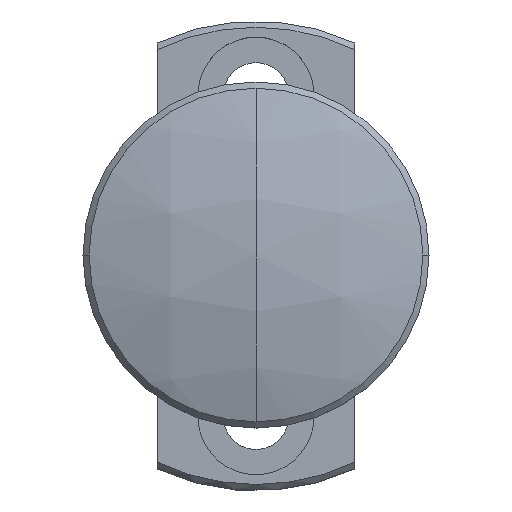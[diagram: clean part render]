
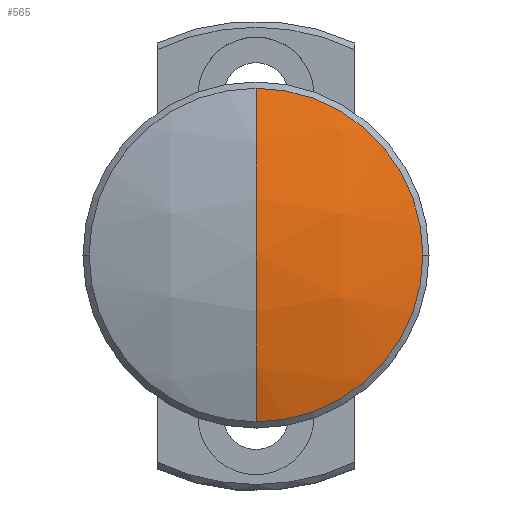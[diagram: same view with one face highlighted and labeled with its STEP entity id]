
A CAD part, top view. The second image highlights one B-rep face of the part: STEP entity #565.
In plain terms, the highlighted spherical face has radius 42 mm.
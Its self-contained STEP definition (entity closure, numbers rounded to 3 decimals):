
#63 = CIRCLE ( 'NONE', #1029, 42. ) ;
#76 = ORIENTED_EDGE ( 'NONE', *, *, #848, .T. ) ;
#109 = DIRECTION ( 'NONE',  ( 0., 0., -1. ) ) ;
#124 = EDGE_CURVE ( 'NONE', #910, #1440, #1928, .T. ) ;
#188 = CARTESIAN_POINT ( 'NONE',  ( 13.5, 21.771, 0. ) ) ;
#245 = EDGE_CURVE ( 'NONE', #746, #397, #63, .T. ) ;
#279 = EDGE_CURVE ( 'NONE', #1440, #397, #2054, .T. ) ;
#282 = AXIS2_PLACEMENT_3D ( 'NONE', #2177, #451, #2154 ) ;
#283 = CARTESIAN_POINT ( 'NONE',  ( 0., 21.771, 0. ) ) ;
#351 = ORIENTED_EDGE ( 'NONE', *, *, #279, .T. ) ;
#397 = VERTEX_POINT ( 'NONE', #2410 ) ;
#402 = DIRECTION ( 'NONE',  ( 0., 0., 1. ) ) ;
#425 = DIRECTION ( 'NONE',  ( 0., 1., 0. ) ) ;
#451 = DIRECTION ( 'NONE',  ( 0., 0., -1. ) ) ;
#533 = CIRCLE ( 'NONE', #846, 13.5 ) ;
#565 = ADVANCED_FACE ( 'NONE', ( #1794 ), #1076, .T. ) ;
#625 = DIRECTION ( 'NONE',  ( 0., 0., 1. ) ) ;
#667 = CARTESIAN_POINT ( 'NONE',  ( 0., 21.771, -13.5 ) ) ;
#731 = ORIENTED_EDGE ( 'NONE', *, *, #245, .F. ) ;
#746 = VERTEX_POINT ( 'NONE', #188 ) ;
#785 = DIRECTION ( 'NONE',  ( 1., 0., 0. ) ) ;
#786 = AXIS2_PLACEMENT_3D ( 'NONE', #1919, #425, #402 ) ;
#842 = CARTESIAN_POINT ( 'NONE',  ( 0., -18., 0. ) ) ;
#846 = AXIS2_PLACEMENT_3D ( 'NONE', #283, #1769, #866 ) ;
#848 = EDGE_CURVE ( 'NONE', #746, #910, #533, .T. ) ;
#866 = DIRECTION ( 'NONE',  ( 0., 0., 1. ) ) ;
#910 = VERTEX_POINT ( 'NONE', #667 ) ;
#962 = AXIS2_PLACEMENT_3D ( 'NONE', #842, #109, #1595 ) ;
#1029 = AXIS2_PLACEMENT_3D ( 'NONE', #1549, #625, #785 ) ;
#1076 = SPHERICAL_SURFACE ( 'NONE', #282, 42. ) ;
#1440 = VERTEX_POINT ( 'NONE', #1857 ) ;
#1476 = EDGE_LOOP ( 'NONE', ( #2064, #351, #731, #76 ) ) ;
#1549 = CARTESIAN_POINT ( 'NONE',  ( 0., -18., 0. ) ) ;
#1595 = DIRECTION ( 'NONE',  ( -1., 0., 0. ) ) ;
#1769 = DIRECTION ( 'NONE',  ( 0., 1., 0. ) ) ;
#1794 = FACE_OUTER_BOUND ( 'NONE', #1476, .T. ) ;
#1857 = CARTESIAN_POINT ( 'NONE',  ( -13.5, 21.771, 0. ) ) ;
#1919 = CARTESIAN_POINT ( 'NONE',  ( 0., 21.771, 0. ) ) ;
#1928 = CIRCLE ( 'NONE', #786, 13.5 ) ;
#2054 = CIRCLE ( 'NONE', #962, 42. ) ;
#2064 = ORIENTED_EDGE ( 'NONE', *, *, #124, .T. ) ;
#2154 = DIRECTION ( 'NONE',  ( 1., 0., 0. ) ) ;
#2177 = CARTESIAN_POINT ( 'NONE',  ( 0., -18., 0. ) ) ;
#2410 = CARTESIAN_POINT ( 'NONE',  ( 0., 24., 0. ) ) ;
